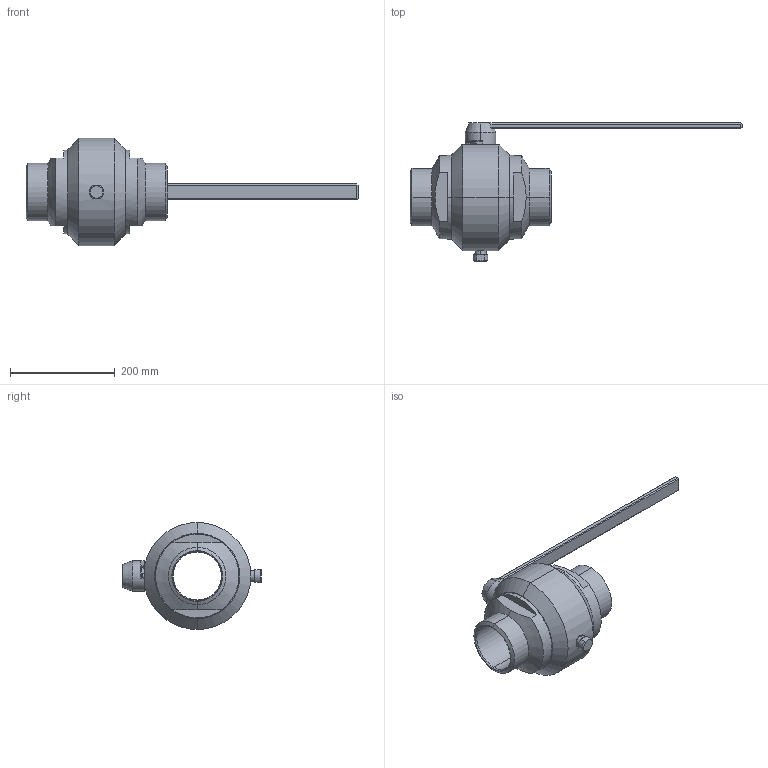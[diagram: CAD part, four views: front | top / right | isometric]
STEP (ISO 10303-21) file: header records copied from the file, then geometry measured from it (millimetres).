
FILE_DESCRIPTION(('STEP AP203'), '1');
FILE_NAME('ZARD 100.016.40.P.stp', '2013-12-09T05:54:06', ('UNSPECIFIED UNSPECIFIED'), ('UNSPECIFIED'), 'ASCON STEP Converter 1.3', 'Kompas 3D', '');
FILE_SCHEMA(('CONFIG_CONTROL_DESIGN','SUPPORT_RESOURCE_SCHEMA'));
Length unit declared in the file: millimetre
Products named in the file (1): 2
Bounding box: 635 x 264 x 205 mm (x, y, z)
Volume: 3336678.9 mm3; surface area: 404017.3 mm2
Topology: 12 solids, 12 shells, 215 faces, 483 edges, 304 vertices
Faces by surface type: plane 97, cylinder 66, cone 52
Entity records: 8184 total; most frequent: CARTESIAN_POINT 3153, DIRECTION 1051, ORIENTED_EDGE 966, EDGE_CURVE 483, AXIS2_PLACEMENT_3D 416, VERTEX_POINT 304, EDGE_LOOP 243, LINE 219
